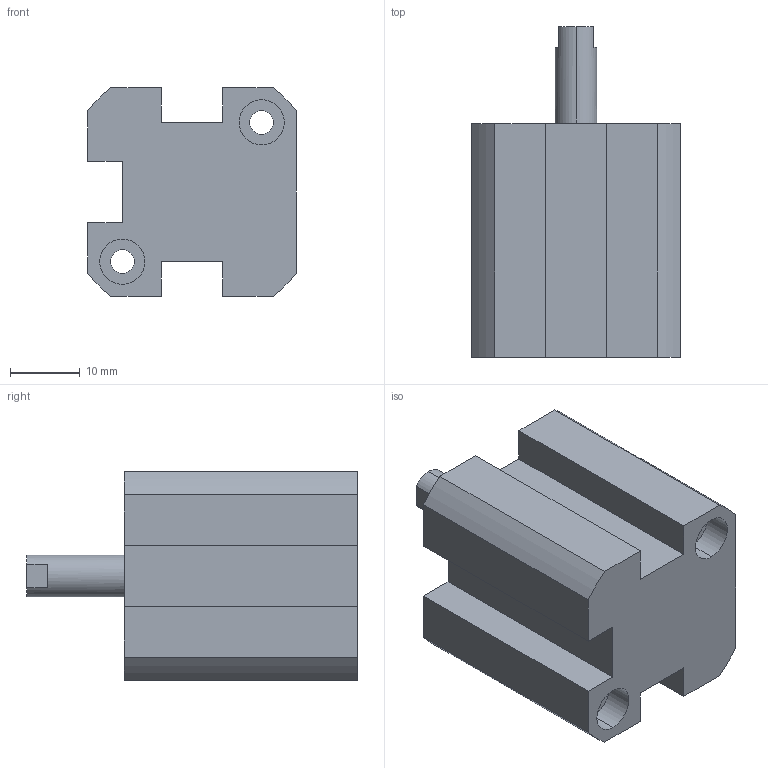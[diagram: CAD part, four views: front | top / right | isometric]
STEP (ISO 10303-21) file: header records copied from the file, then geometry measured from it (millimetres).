
FILE_DESCRIPTION (( 'STEP AP203' ), '1' );
FILE_NAME ('XC#0-16D-10.STEP', '2016-05-23T06:51:54', ( '' ), ( '' ), 'SwSTEP 2.0', 'SolidWorks 2014', '' );
FILE_SCHEMA (( 'CONFIG_CONTROL_DESIGN' ));
Length unit declared in the file: millimetre
Products named in the file (1): XC#0-16D-10
Bounding box: 30 x 47.5 x 30 mm (x, y, z)
Volume: 23920.8 mm3; surface area: 7761.2 mm2
Topology: 1 solids, 1 shells, 73 faces, 181 edges, 117 vertices
Faces by surface type: cylinder 37, plane 32, cone 4
Entity records: 2251 total; most frequent: DIRECTION 404, CARTESIAN_POINT 368, ORIENTED_EDGE 354, EDGE_CURVE 177, AXIS2_PLACEMENT_3D 153, VERTEX_POINT 117, VECTOR 98, LINE 98
